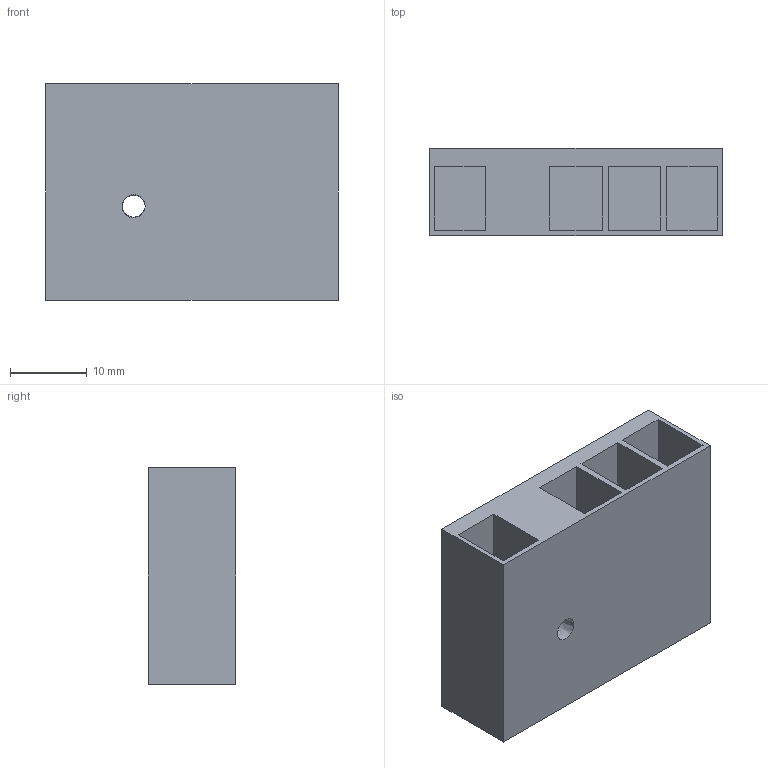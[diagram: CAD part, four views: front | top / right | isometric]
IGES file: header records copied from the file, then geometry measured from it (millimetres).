
Start section:  PTC IGES file: j5d-cnp3.igs
Global section: file name: j5d-cnp3.igs; native system: Creo Parametric by PTC Inc.; preprocessor: 2020184; author: VX25986; organization: Unknown; date: 20210323.200205; units: millimetre
Bounding box: 38.1 x 11.4 x 28.3 mm (x, y, z)
Surface area: 5659.7 mm2 (no closed solid volume)
Topology: 0 solids, 0 shells, 28 faces, 132 edges, 132 vertices
Faces by surface type: bspline 28
